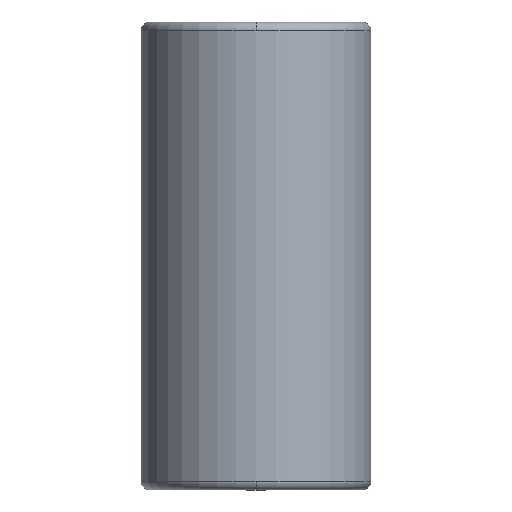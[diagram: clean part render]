
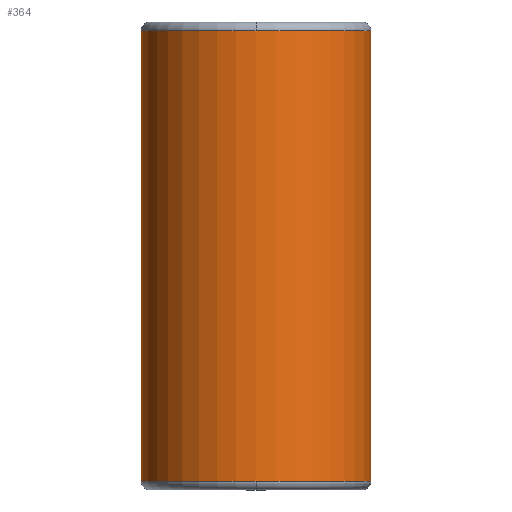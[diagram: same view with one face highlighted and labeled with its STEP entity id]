
A CAD part, front view. The second image highlights one B-rep face of the part: STEP entity #364.
In plain terms, the highlighted cylindrical face has radius 26.993 mm (diameter 53.986 mm), a partial arc.
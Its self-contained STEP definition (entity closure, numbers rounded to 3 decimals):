
#269=CARTESIAN_POINT('',(0.0,-26.993,108.0));
#270=VERTEX_POINT('',#269);
#296=CARTESIAN_POINT('',(-26.993,0.,108.0));
#297=VERTEX_POINT('',#296);
#305=CARTESIAN_POINT('',(0.0,0.,108.0));
#306=DIRECTION('',(0.0,0.0,1.0));
#307=DIRECTION('',(1.0,0.0,0.0));
#308=AXIS2_PLACEMENT_3D('',#305,#306,#307);
#309=CIRCLE('',#308,26.993);
#310=EDGE_CURVE('',#297,#270,#309,.T.);
#315=CARTESIAN_POINT('',(0.0,0.,55.0));
#316=DIRECTION('',(0.0,0.,1.0));
#317=DIRECTION('',(1.0,0.0,0.0));
#318=AXIS2_PLACEMENT_3D('',#315,#316,#317);
#319=CYLINDRICAL_SURFACE('',#318,26.993);
#320=CARTESIAN_POINT('',(26.993,0.,108.0));
#321=VERTEX_POINT('',#320);
#322=CARTESIAN_POINT('',(26.993,0.,2.));
#323=VERTEX_POINT('',#322);
#324=CARTESIAN_POINT('',(26.993,0.,108.0));
#325=DIRECTION('',(0.0,0.0,-1.0));
#326=VECTOR('',#325,106.0);
#327=LINE('',#324,#326);
#328=EDGE_CURVE('',#321,#323,#327,.T.);
#329=ORIENTED_EDGE('',*,*,#328,.F.);
#330=CARTESIAN_POINT('',(0.0,0.,108.0));
#331=DIRECTION('',(0.0,0.0,1.0));
#332=DIRECTION('',(1.0,0.0,0.0));
#333=AXIS2_PLACEMENT_3D('',#330,#331,#332);
#334=CIRCLE('',#333,26.993);
#335=EDGE_CURVE('',#270,#321,#334,.T.);
#336=ORIENTED_EDGE('',*,*,#335,.F.);
#337=ORIENTED_EDGE('',*,*,#310,.F.);
#338=CARTESIAN_POINT('',(-26.993,0.,2.0));
#339=VERTEX_POINT('',#338);
#340=CARTESIAN_POINT('',(-26.993,0.,108.0));
#341=DIRECTION('',(0.0,0.0,-1.0));
#342=VECTOR('',#341,106.0);
#343=LINE('',#340,#342);
#344=EDGE_CURVE('',#297,#339,#343,.T.);
#345=ORIENTED_EDGE('',*,*,#344,.T.);
#346=CARTESIAN_POINT('',(0.0,-26.993,2.));
#347=VERTEX_POINT('',#346);
#348=CARTESIAN_POINT('',(0.0,0.,2.0));
#349=DIRECTION('',(0.0,0.0,1.0));
#350=DIRECTION('',(1.0,0.0,0.0));
#351=AXIS2_PLACEMENT_3D('',#348,#349,#350);
#352=CIRCLE('',#351,26.993);
#353=EDGE_CURVE('',#339,#347,#352,.T.);
#354=ORIENTED_EDGE('',*,*,#353,.T.);
#355=CARTESIAN_POINT('',(0.0,0.,2.0));
#356=DIRECTION('',(0.0,0.0,1.0));
#357=DIRECTION('',(1.0,0.0,0.0));
#358=AXIS2_PLACEMENT_3D('',#355,#356,#357);
#359=CIRCLE('',#358,26.993);
#360=EDGE_CURVE('',#347,#323,#359,.T.);
#361=ORIENTED_EDGE('',*,*,#360,.T.);
#362=EDGE_LOOP('',(#329,#336,#337,#345,#354,#361));
#363=FACE_OUTER_BOUND('',#362,.T.);
#364=ADVANCED_FACE('',(#363),#319,.T.);
